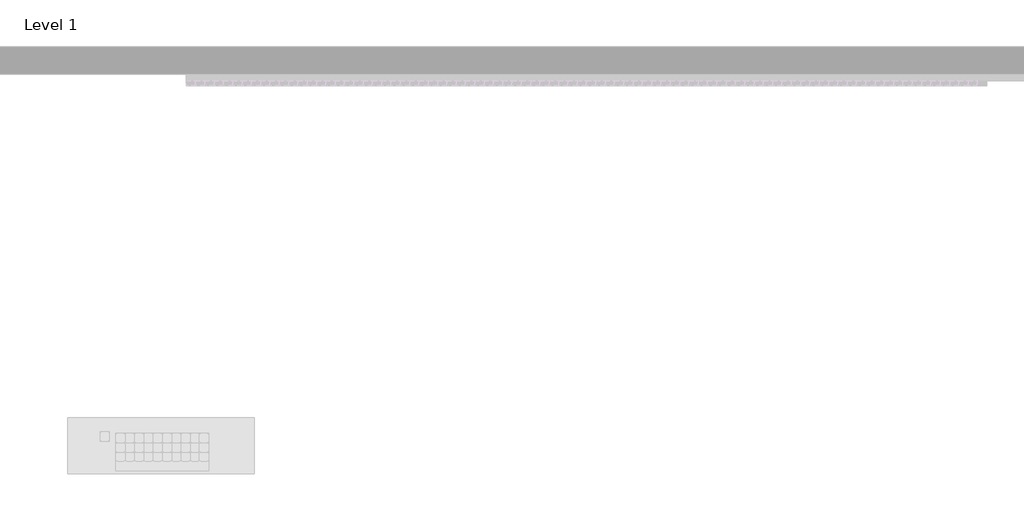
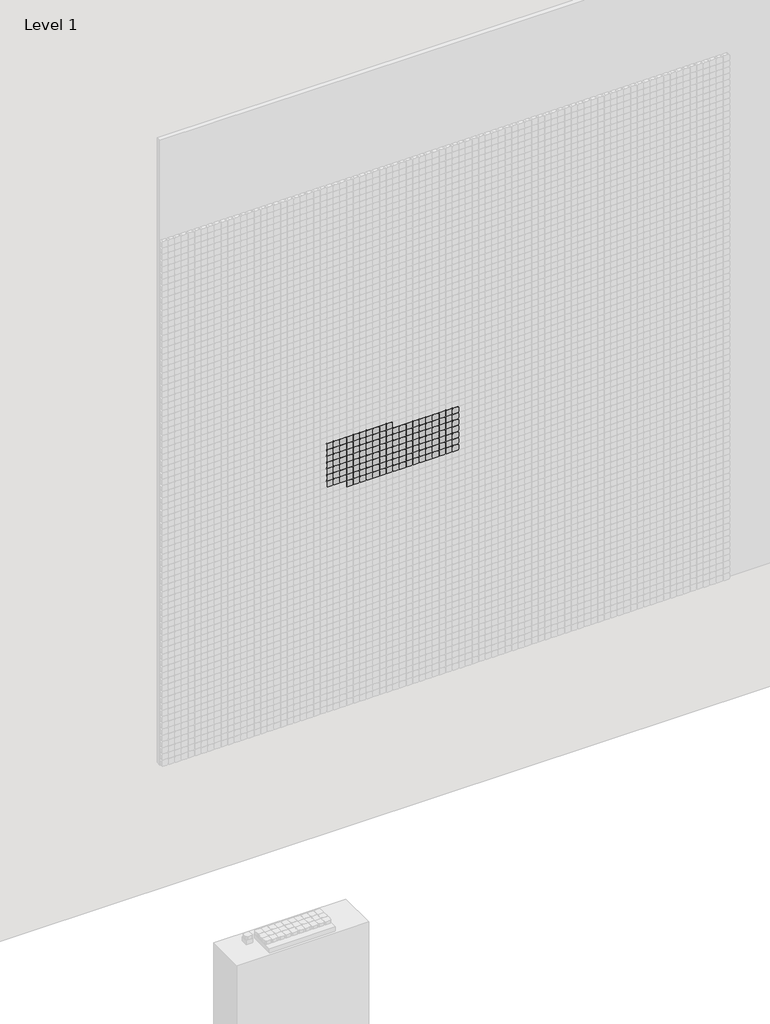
# One storey, part 29 of 71: 147 proxies.
"""IFC4 building model written with IfcOpenShell, lengths in millimetres."""

from ifc_helpers import new_model, si_unit, origin, place, context, project, spatial, transform, mapped, element, save
from components import generic_models_afde289c

model = new_model("IFC4")

# Units and contexts
model_context = context("Model", 3, world=origin())
ifc_project = project(units=[si_unit("LENGTHUNIT", "METRE", prefix="MILLI")], contexts=[model_context])

# Site, building, storey
site = spatial("IfcSite", under=ifc_project)
building = spatial("IfcBuilding", under=site)
storey = spatial("IfcBuildingStorey", under=building, Name="Level 1", Elevation=0.0)

# Proxies
placement = place(None, origin())
generic_models_shape = generic_models_afde289c(model_context)
element("IfcBuildingElementProxy", 1, Name="Pixel_M : Pixel_M", ObjectType="Pixel_M : Pixel_M", at=placement, inside=storey, context=model_context, shape_type="MappedRepresentation", body=[
    mapped(generic_models_shape, transform((6462.4280941, -75.0, 3116.3566215), x_axis=(1.0, 0.0, 0.0), y_axis=(0.0, 0.0, 1.0), z_axis=(0.0, -1.0, 0.0))),
])
element("IfcBuildingElementProxy", 2, Name="Pixel_M : Pixel_M", ObjectType="Pixel_M : Pixel_M", at=placement, inside=storey, context=model_context, shape_type="MappedRepresentation", body=[
    mapped(generic_models_shape, transform((6412.4280941, -75.0, 3116.3566215), x_axis=(1.0, 0.0, 0.0), y_axis=(0.0, 0.0, 1.0), z_axis=(0.0, -1.0, 0.0))),
])
element("IfcBuildingElementProxy", 3, Name="Pixel_M : Pixel_M", ObjectType="Pixel_M : Pixel_M", at=placement, inside=storey, context=model_context, shape_type="MappedRepresentation", body=[
    mapped(generic_models_shape, transform((6362.4280941, -75.0, 3116.3566215), x_axis=(1.0, 0.0, 0.0), y_axis=(0.0, 0.0, 1.0), z_axis=(0.0, -1.0, 0.0))),
])
element("IfcBuildingElementProxy", 4, Name="Pixel_M : Pixel_M", ObjectType="Pixel_M : Pixel_M", at=placement, inside=storey, context=model_context, shape_type="MappedRepresentation", body=[
    mapped(generic_models_shape, transform((6312.4280941, -75.0, 3116.3566215), x_axis=(1.0, 0.0, 0.0), y_axis=(0.0, 0.0, 1.0), z_axis=(0.0, -1.0, 0.0))),
])
element("IfcBuildingElementProxy", 5, Name="Pixel_M : Pixel_M", ObjectType="Pixel_M : Pixel_M", at=placement, inside=storey, context=model_context, shape_type="MappedRepresentation", body=[
    mapped(generic_models_shape, transform((6262.4280941, -75.0, 3116.3566215), x_axis=(1.0, 0.0, 0.0), y_axis=(0.0, 0.0, 1.0), z_axis=(0.0, -1.0, 0.0))),
])
element("IfcBuildingElementProxy", 6, Name="Pixel_M : Pixel_M", ObjectType="Pixel_M : Pixel_M", at=placement, inside=storey, context=model_context, shape_type="MappedRepresentation", body=[
    mapped(generic_models_shape, transform((6212.4280941, -75.0, 3116.3566215), x_axis=(1.0, 0.0, 0.0), y_axis=(0.0, 0.0, 1.0), z_axis=(0.0, -1.0, 0.0))),
])
element("IfcBuildingElementProxy", 7, Name="Pixel_M : Pixel_M", ObjectType="Pixel_M : Pixel_M", at=placement, inside=storey, context=model_context, shape_type="MappedRepresentation", body=[
    mapped(generic_models_shape, transform((6162.4280941, -75.0, 3116.3566215), x_axis=(1.0, 0.0, 0.0), y_axis=(0.0, 0.0, 1.0), z_axis=(0.0, -1.0, 0.0))),
])
element("IfcBuildingElementProxy", 8, Name="Pixel_M : Pixel_M", ObjectType="Pixel_M : Pixel_M", at=placement, inside=storey, context=model_context, shape_type="MappedRepresentation", body=[
    mapped(generic_models_shape, transform((6112.4280941, -75.0, 3116.3566215), x_axis=(1.0, 0.0, 0.0), y_axis=(0.0, 0.0, 1.0), z_axis=(0.0, -1.0, 0.0))),
])
element("IfcBuildingElementProxy", 9, Name="Pixel_M : Pixel_M", ObjectType="Pixel_M : Pixel_M", at=placement, inside=storey, context=model_context, shape_type="MappedRepresentation", body=[
    mapped(generic_models_shape, transform((6062.4280941, -75.0, 3116.3566215), x_axis=(1.0, 0.0, 0.0), y_axis=(0.0, 0.0, 1.0), z_axis=(0.0, -1.0, 0.0))),
])
element("IfcBuildingElementProxy", 10, Name="Pixel_M : Pixel_M", ObjectType="Pixel_M : Pixel_M", at=placement, inside=storey, context=model_context, shape_type="MappedRepresentation", body=[
    mapped(generic_models_shape, transform((6012.4280941, -75.0, 3116.3566215), x_axis=(1.0, 0.0, 0.0), y_axis=(0.0, 0.0, 1.0), z_axis=(0.0, -1.0, 0.0))),
])
element("IfcBuildingElementProxy", 11, Name="Pixel_M : Pixel_M", ObjectType="Pixel_M : Pixel_M", at=placement, inside=storey, context=model_context, shape_type="MappedRepresentation", body=[
    mapped(generic_models_shape, transform((6962.4280941, -75.0, 3066.3566215), x_axis=(1.0, 0.0, 0.0), y_axis=(0.0, 0.0, 1.0), z_axis=(0.0, -1.0, 0.0))),
])
element("IfcBuildingElementProxy", 12, Name="Pixel_M : Pixel_M", ObjectType="Pixel_M : Pixel_M", at=placement, inside=storey, context=model_context, shape_type="MappedRepresentation", body=[
    mapped(generic_models_shape, transform((6912.4280941, -75.0, 3066.3566215), x_axis=(1.0, 0.0, 0.0), y_axis=(0.0, 0.0, 1.0), z_axis=(0.0, -1.0, 0.0))),
])
element("IfcBuildingElementProxy", 13, Name="Pixel_M : Pixel_M", ObjectType="Pixel_M : Pixel_M", at=placement, inside=storey, context=model_context, shape_type="MappedRepresentation", body=[
    mapped(generic_models_shape, transform((6862.4280941, -75.0, 3066.3566215), x_axis=(1.0, 0.0, 0.0), y_axis=(0.0, 0.0, 1.0), z_axis=(0.0, -1.0, 0.0))),
])
element("IfcBuildingElementProxy", 14, Name="Pixel_M : Pixel_M", ObjectType="Pixel_M : Pixel_M", at=placement, inside=storey, context=model_context, shape_type="MappedRepresentation", body=[
    mapped(generic_models_shape, transform((6812.4280941, -75.0, 3066.3566215), x_axis=(1.0, 0.0, 0.0), y_axis=(0.0, 0.0, 1.0), z_axis=(0.0, -1.0, 0.0))),
])
element("IfcBuildingElementProxy", 15, Name="Pixel_M : Pixel_M", ObjectType="Pixel_M : Pixel_M", at=placement, inside=storey, context=model_context, shape_type="MappedRepresentation", body=[
    mapped(generic_models_shape, transform((6762.4280941, -75.0, 3066.3566215), x_axis=(1.0, 0.0, 0.0), y_axis=(0.0, 0.0, 1.0), z_axis=(0.0, -1.0, 0.0))),
])
element("IfcBuildingElementProxy", 16, Name="Pixel_M : Pixel_M", ObjectType="Pixel_M : Pixel_M", at=placement, inside=storey, context=model_context, shape_type="MappedRepresentation", body=[
    mapped(generic_models_shape, transform((6712.4280941, -75.0, 3066.3566215), x_axis=(1.0, 0.0, 0.0), y_axis=(0.0, 0.0, 1.0), z_axis=(0.0, -1.0, 0.0))),
])
element("IfcBuildingElementProxy", 17, Name="Pixel_M : Pixel_M", ObjectType="Pixel_M : Pixel_M", at=placement, inside=storey, context=model_context, shape_type="MappedRepresentation", body=[
    mapped(generic_models_shape, transform((6662.4280941, -75.0, 3066.3566215), x_axis=(1.0, 0.0, 0.0), y_axis=(0.0, 0.0, 1.0), z_axis=(0.0, -1.0, 0.0))),
])
element("IfcBuildingElementProxy", 18, Name="Pixel_M : Pixel_M", ObjectType="Pixel_M : Pixel_M", at=placement, inside=storey, context=model_context, shape_type="MappedRepresentation", body=[
    mapped(generic_models_shape, transform((6612.4280941, -75.0, 3066.3566215), x_axis=(1.0, 0.0, 0.0), y_axis=(0.0, 0.0, 1.0), z_axis=(0.0, -1.0, 0.0))),
])
element("IfcBuildingElementProxy", 19, Name="Pixel_M : Pixel_M", ObjectType="Pixel_M : Pixel_M", at=placement, inside=storey, context=model_context, shape_type="MappedRepresentation", body=[
    mapped(generic_models_shape, transform((6562.4280941, -75.0, 3066.3566215), x_axis=(1.0, 0.0, 0.0), y_axis=(0.0, 0.0, 1.0), z_axis=(0.0, -1.0, 0.0))),
])
element("IfcBuildingElementProxy", 20, Name="Pixel_M : Pixel_M", ObjectType="Pixel_M : Pixel_M", at=placement, inside=storey, context=model_context, shape_type="MappedRepresentation", body=[
    mapped(generic_models_shape, transform((6512.4280941, -75.0, 3066.3566215), x_axis=(1.0, 0.0, 0.0), y_axis=(0.0, 0.0, 1.0), z_axis=(0.0, -1.0, 0.0))),
])
element("IfcBuildingElementProxy", 21, Name="Pixel_M : Pixel_M", ObjectType="Pixel_M : Pixel_M", at=placement, inside=storey, context=model_context, shape_type="MappedRepresentation", body=[
    mapped(generic_models_shape, transform((6462.4280941, -75.0, 3066.3566215), x_axis=(1.0, 0.0, 0.0), y_axis=(0.0, 0.0, 1.0), z_axis=(0.0, -1.0, 0.0))),
])
element("IfcBuildingElementProxy", 22, Name="Pixel_M : Pixel_M", ObjectType="Pixel_M : Pixel_M", at=placement, inside=storey, context=model_context, shape_type="MappedRepresentation", body=[
    mapped(generic_models_shape, transform((6412.4280941, -75.0, 3066.3566215), x_axis=(1.0, 0.0, 0.0), y_axis=(0.0, 0.0, 1.0), z_axis=(0.0, -1.0, 0.0))),
])
element("IfcBuildingElementProxy", 23, Name="Pixel_M : Pixel_M", ObjectType="Pixel_M : Pixel_M", at=placement, inside=storey, context=model_context, shape_type="MappedRepresentation", body=[
    mapped(generic_models_shape, transform((6362.4280941, -75.0, 3066.3566215), x_axis=(1.0, 0.0, 0.0), y_axis=(0.0, 0.0, 1.0), z_axis=(0.0, -1.0, 0.0))),
])
element("IfcBuildingElementProxy", 24, Name="Pixel_M : Pixel_M", ObjectType="Pixel_M : Pixel_M", at=placement, inside=storey, context=model_context, shape_type="MappedRepresentation", body=[
    mapped(generic_models_shape, transform((6312.4280941, -75.0, 3066.3566215), x_axis=(1.0, 0.0, 0.0), y_axis=(0.0, 0.0, 1.0), z_axis=(0.0, -1.0, 0.0))),
])
element("IfcBuildingElementProxy", 25, Name="Pixel_M : Pixel_M", ObjectType="Pixel_M : Pixel_M", at=placement, inside=storey, context=model_context, shape_type="MappedRepresentation", body=[
    mapped(generic_models_shape, transform((6262.4280941, -75.0, 3066.3566215), x_axis=(1.0, 0.0, 0.0), y_axis=(0.0, 0.0, 1.0), z_axis=(0.0, -1.0, 0.0))),
])
element("IfcBuildingElementProxy", 26, Name="Pixel_M : Pixel_M", ObjectType="Pixel_M : Pixel_M", at=placement, inside=storey, context=model_context, shape_type="MappedRepresentation", body=[
    mapped(generic_models_shape, transform((6212.4280941, -75.0, 3066.3566215), x_axis=(1.0, 0.0, 0.0), y_axis=(0.0, 0.0, 1.0), z_axis=(0.0, -1.0, 0.0))),
])
element("IfcBuildingElementProxy", 27, Name="Pixel_M : Pixel_M", ObjectType="Pixel_M : Pixel_M", at=placement, inside=storey, context=model_context, shape_type="MappedRepresentation", body=[
    mapped(generic_models_shape, transform((6162.4280941, -75.0, 3066.3566215), x_axis=(1.0, 0.0, 0.0), y_axis=(0.0, 0.0, 1.0), z_axis=(0.0, -1.0, 0.0))),
])
element("IfcBuildingElementProxy", 28, Name="Pixel_M : Pixel_M", ObjectType="Pixel_M : Pixel_M", at=placement, inside=storey, context=model_context, shape_type="MappedRepresentation", body=[
    mapped(generic_models_shape, transform((6112.4280941, -75.0, 3066.3566215), x_axis=(1.0, 0.0, 0.0), y_axis=(0.0, 0.0, 1.0), z_axis=(0.0, -1.0, 0.0))),
])
element("IfcBuildingElementProxy", 29, Name="Pixel_M : Pixel_M", ObjectType="Pixel_M : Pixel_M", at=placement, inside=storey, context=model_context, shape_type="MappedRepresentation", body=[
    mapped(generic_models_shape, transform((6062.4280941, -75.0, 3066.3566215), x_axis=(1.0, 0.0, 0.0), y_axis=(0.0, 0.0, 1.0), z_axis=(0.0, -1.0, 0.0))),
])
element("IfcBuildingElementProxy", 30, Name="Pixel_M : Pixel_M", ObjectType="Pixel_M : Pixel_M", at=placement, inside=storey, context=model_context, shape_type="MappedRepresentation", body=[
    mapped(generic_models_shape, transform((6012.4280941, -75.0, 3066.3566215), x_axis=(1.0, 0.0, 0.0), y_axis=(0.0, 0.0, 1.0), z_axis=(0.0, -1.0, 0.0))),
])
element("IfcBuildingElementProxy", 31, Name="Pixel_M : Pixel_M", ObjectType="Pixel_M : Pixel_M", at=placement, inside=storey, context=model_context, shape_type="MappedRepresentation", body=[
    mapped(generic_models_shape, transform((6962.4280941, -75.0, 3016.3566215), x_axis=(1.0, 0.0, 0.0), y_axis=(0.0, 0.0, 1.0), z_axis=(0.0, -1.0, 0.0))),
])
element("IfcBuildingElementProxy", 32, Name="Pixel_M : Pixel_M", ObjectType="Pixel_M : Pixel_M", at=placement, inside=storey, context=model_context, shape_type="MappedRepresentation", body=[
    mapped(generic_models_shape, transform((6912.4280941, -75.0, 3016.3566215), x_axis=(1.0, 0.0, 0.0), y_axis=(0.0, 0.0, 1.0), z_axis=(0.0, -1.0, 0.0))),
])
element("IfcBuildingElementProxy", 33, Name="Pixel_M : Pixel_M", ObjectType="Pixel_M : Pixel_M", at=placement, inside=storey, context=model_context, shape_type="MappedRepresentation", body=[
    mapped(generic_models_shape, transform((6862.4280941, -75.0, 3016.3566215), x_axis=(1.0, 0.0, 0.0), y_axis=(0.0, 0.0, 1.0), z_axis=(0.0, -1.0, 0.0))),
])
element("IfcBuildingElementProxy", 34, Name="Pixel_M : Pixel_M", ObjectType="Pixel_M : Pixel_M", at=placement, inside=storey, context=model_context, shape_type="MappedRepresentation", body=[
    mapped(generic_models_shape, transform((6812.4280941, -75.0, 3016.3566215), x_axis=(1.0, 0.0, 0.0), y_axis=(0.0, 0.0, 1.0), z_axis=(0.0, -1.0, 0.0))),
])
element("IfcBuildingElementProxy", 35, Name="Pixel_M : Pixel_M", ObjectType="Pixel_M : Pixel_M", at=placement, inside=storey, context=model_context, shape_type="MappedRepresentation", body=[
    mapped(generic_models_shape, transform((6762.4280941, -75.0, 3016.3566215), x_axis=(1.0, 0.0, 0.0), y_axis=(0.0, 0.0, 1.0), z_axis=(0.0, -1.0, 0.0))),
])
element("IfcBuildingElementProxy", 36, Name="Pixel_M : Pixel_M", ObjectType="Pixel_M : Pixel_M", at=placement, inside=storey, context=model_context, shape_type="MappedRepresentation", body=[
    mapped(generic_models_shape, transform((6712.4280941, -75.0, 3016.3566215), x_axis=(1.0, 0.0, 0.0), y_axis=(0.0, 0.0, 1.0), z_axis=(0.0, -1.0, 0.0))),
])
element("IfcBuildingElementProxy", 37, Name="Pixel_M : Pixel_M", ObjectType="Pixel_M : Pixel_M", at=placement, inside=storey, context=model_context, shape_type="MappedRepresentation", body=[
    mapped(generic_models_shape, transform((6662.4280941, -75.0, 3016.3566215), x_axis=(1.0, 0.0, 0.0), y_axis=(0.0, 0.0, 1.0), z_axis=(0.0, -1.0, 0.0))),
])
element("IfcBuildingElementProxy", 38, Name="Pixel_M : Pixel_M", ObjectType="Pixel_M : Pixel_M", at=placement, inside=storey, context=model_context, shape_type="MappedRepresentation", body=[
    mapped(generic_models_shape, transform((6612.4280941, -75.0, 3016.3566215), x_axis=(1.0, 0.0, 0.0), y_axis=(0.0, 0.0, 1.0), z_axis=(0.0, -1.0, 0.0))),
])
element("IfcBuildingElementProxy", 39, Name="Pixel_M : Pixel_M", ObjectType="Pixel_M : Pixel_M", at=placement, inside=storey, context=model_context, shape_type="MappedRepresentation", body=[
    mapped(generic_models_shape, transform((6562.4280941, -75.0, 3016.3566215), x_axis=(1.0, 0.0, 0.0), y_axis=(0.0, 0.0, 1.0), z_axis=(0.0, -1.0, 0.0))),
])
element("IfcBuildingElementProxy", 40, Name="Pixel_M : Pixel_M", ObjectType="Pixel_M : Pixel_M", at=placement, inside=storey, context=model_context, shape_type="MappedRepresentation", body=[
    mapped(generic_models_shape, transform((6512.4280941, -75.0, 3016.3566215), x_axis=(1.0, 0.0, 0.0), y_axis=(0.0, 0.0, 1.0), z_axis=(0.0, -1.0, 0.0))),
])
element("IfcBuildingElementProxy", 41, Name="Pixel_M : Pixel_M", ObjectType="Pixel_M : Pixel_M", at=placement, inside=storey, context=model_context, shape_type="MappedRepresentation", body=[
    mapped(generic_models_shape, transform((6462.4280941, -75.0, 3016.3566215), x_axis=(1.0, 0.0, 0.0), y_axis=(0.0, 0.0, 1.0), z_axis=(0.0, -1.0, 0.0))),
])
element("IfcBuildingElementProxy", 42, Name="Pixel_M : Pixel_M", ObjectType="Pixel_M : Pixel_M", at=placement, inside=storey, context=model_context, shape_type="MappedRepresentation", body=[
    mapped(generic_models_shape, transform((6412.4280941, -75.0, 3016.3566215), x_axis=(1.0, 0.0, 0.0), y_axis=(0.0, 0.0, 1.0), z_axis=(0.0, -1.0, 0.0))),
])
element("IfcBuildingElementProxy", 43, Name="Pixel_M : Pixel_M", ObjectType="Pixel_M : Pixel_M", at=placement, inside=storey, context=model_context, shape_type="MappedRepresentation", body=[
    mapped(generic_models_shape, transform((6362.4280941, -75.0, 3016.3566215), x_axis=(1.0, 0.0, 0.0), y_axis=(0.0, 0.0, 1.0), z_axis=(0.0, -1.0, 0.0))),
])
element("IfcBuildingElementProxy", 44, Name="Pixel_M : Pixel_M", ObjectType="Pixel_M : Pixel_M", at=placement, inside=storey, context=model_context, shape_type="MappedRepresentation", body=[
    mapped(generic_models_shape, transform((6312.4280941, -75.0, 3016.3566215), x_axis=(1.0, 0.0, 0.0), y_axis=(0.0, 0.0, 1.0), z_axis=(0.0, -1.0, 0.0))),
])
element("IfcBuildingElementProxy", 45, Name="Pixel_M : Pixel_M", ObjectType="Pixel_M : Pixel_M", at=placement, inside=storey, context=model_context, shape_type="MappedRepresentation", body=[
    mapped(generic_models_shape, transform((6262.4280941, -75.0, 3016.3566215), x_axis=(1.0, 0.0, 0.0), y_axis=(0.0, 0.0, 1.0), z_axis=(0.0, -1.0, 0.0))),
])
element("IfcBuildingElementProxy", 46, Name="Pixel_M : Pixel_M", ObjectType="Pixel_M : Pixel_M", at=placement, inside=storey, context=model_context, shape_type="MappedRepresentation", body=[
    mapped(generic_models_shape, transform((6212.4280941, -75.0, 3016.3566215), x_axis=(1.0, 0.0, 0.0), y_axis=(0.0, 0.0, 1.0), z_axis=(0.0, -1.0, 0.0))),
])
element("IfcBuildingElementProxy", 47, Name="Pixel_M : Pixel_M", ObjectType="Pixel_M : Pixel_M", at=placement, inside=storey, context=model_context, shape_type="MappedRepresentation", body=[
    mapped(generic_models_shape, transform((6162.4280941, -75.0, 3016.3566215), x_axis=(1.0, 0.0, 0.0), y_axis=(0.0, 0.0, 1.0), z_axis=(0.0, -1.0, 0.0))),
])
element("IfcBuildingElementProxy", 48, Name="Pixel_M : Pixel_M", ObjectType="Pixel_M : Pixel_M", at=placement, inside=storey, context=model_context, shape_type="MappedRepresentation", body=[
    mapped(generic_models_shape, transform((6112.4280941, -75.0, 3016.3566215), x_axis=(1.0, 0.0, 0.0), y_axis=(0.0, 0.0, 1.0), z_axis=(0.0, -1.0, 0.0))),
])
element("IfcBuildingElementProxy", 49, Name="Pixel_M : Pixel_M", ObjectType="Pixel_M : Pixel_M", at=placement, inside=storey, context=model_context, shape_type="MappedRepresentation", body=[
    mapped(generic_models_shape, transform((6062.4280941, -75.0, 3016.3566215), x_axis=(1.0, 0.0, 0.0), y_axis=(0.0, 0.0, 1.0), z_axis=(0.0, -1.0, 0.0))),
])
element("IfcBuildingElementProxy", 50, Name="Pixel_M : Pixel_M", ObjectType="Pixel_M : Pixel_M", at=placement, inside=storey, context=model_context, shape_type="MappedRepresentation", body=[
    mapped(generic_models_shape, transform((6012.4280941, -75.0, 3016.3566215), x_axis=(1.0, 0.0, 0.0), y_axis=(0.0, 0.0, 1.0), z_axis=(0.0, -1.0, 0.0))),
])
element("IfcBuildingElementProxy", 51, Name="Pixel_M : Pixel_M", ObjectType="Pixel_M : Pixel_M", at=placement, inside=storey, context=model_context, shape_type="MappedRepresentation", body=[
    mapped(generic_models_shape, transform((6962.4280941, -75.0, 2966.3566215), x_axis=(1.0, 0.0, 0.0), y_axis=(0.0, 0.0, 1.0), z_axis=(0.0, -1.0, 0.0))),
])
element("IfcBuildingElementProxy", 52, Name="Pixel_M : Pixel_M", ObjectType="Pixel_M : Pixel_M", at=placement, inside=storey, context=model_context, shape_type="MappedRepresentation", body=[
    mapped(generic_models_shape, transform((6912.4280941, -75.0, 2966.3566215), x_axis=(1.0, 0.0, 0.0), y_axis=(0.0, 0.0, 1.0), z_axis=(0.0, -1.0, 0.0))),
])
element("IfcBuildingElementProxy", 53, Name="Pixel_M : Pixel_M", ObjectType="Pixel_M : Pixel_M", at=placement, inside=storey, context=model_context, shape_type="MappedRepresentation", body=[
    mapped(generic_models_shape, transform((6862.4280941, -75.0, 2966.3566215), x_axis=(1.0, 0.0, 0.0), y_axis=(0.0, 0.0, 1.0), z_axis=(0.0, -1.0, 0.0))),
])
element("IfcBuildingElementProxy", 54, Name="Pixel_M : Pixel_M", ObjectType="Pixel_M : Pixel_M", at=placement, inside=storey, context=model_context, shape_type="MappedRepresentation", body=[
    mapped(generic_models_shape, transform((6812.4280941, -75.0, 2966.3566215), x_axis=(1.0, 0.0, 0.0), y_axis=(0.0, 0.0, 1.0), z_axis=(0.0, -1.0, 0.0))),
])
element("IfcBuildingElementProxy", 55, Name="Pixel_M : Pixel_M", ObjectType="Pixel_M : Pixel_M", at=placement, inside=storey, context=model_context, shape_type="MappedRepresentation", body=[
    mapped(generic_models_shape, transform((6762.4280941, -75.0, 2966.3566215), x_axis=(1.0, 0.0, 0.0), y_axis=(0.0, 0.0, 1.0), z_axis=(0.0, -1.0, 0.0))),
])
element("IfcBuildingElementProxy", 56, Name="Pixel_M : Pixel_M", ObjectType="Pixel_M : Pixel_M", at=placement, inside=storey, context=model_context, shape_type="MappedRepresentation", body=[
    mapped(generic_models_shape, transform((6712.4280941, -75.0, 2966.3566215), x_axis=(1.0, 0.0, 0.0), y_axis=(0.0, 0.0, 1.0), z_axis=(0.0, -1.0, 0.0))),
])
element("IfcBuildingElementProxy", 57, Name="Pixel_M : Pixel_M", ObjectType="Pixel_M : Pixel_M", at=placement, inside=storey, context=model_context, shape_type="MappedRepresentation", body=[
    mapped(generic_models_shape, transform((6662.4280941, -75.0, 2966.3566215), x_axis=(1.0, 0.0, 0.0), y_axis=(0.0, 0.0, 1.0), z_axis=(0.0, -1.0, 0.0))),
])
element("IfcBuildingElementProxy", 58, Name="Pixel_M : Pixel_M", ObjectType="Pixel_M : Pixel_M", at=placement, inside=storey, context=model_context, shape_type="MappedRepresentation", body=[
    mapped(generic_models_shape, transform((6612.4280941, -75.0, 2966.3566215), x_axis=(1.0, 0.0, 0.0), y_axis=(0.0, 0.0, 1.0), z_axis=(0.0, -1.0, 0.0))),
])
element("IfcBuildingElementProxy", 59, Name="Pixel_M : Pixel_M", ObjectType="Pixel_M : Pixel_M", at=placement, inside=storey, context=model_context, shape_type="MappedRepresentation", body=[
    mapped(generic_models_shape, transform((6562.4280941, -75.0, 2966.3566215), x_axis=(1.0, 0.0, 0.0), y_axis=(0.0, 0.0, 1.0), z_axis=(0.0, -1.0, 0.0))),
])
element("IfcBuildingElementProxy", 60, Name="Pixel_M : Pixel_M", ObjectType="Pixel_M : Pixel_M", at=placement, inside=storey, context=model_context, shape_type="MappedRepresentation", body=[
    mapped(generic_models_shape, transform((6512.4280941, -75.0, 2966.3566215), x_axis=(1.0, 0.0, 0.0), y_axis=(0.0, 0.0, 1.0), z_axis=(0.0, -1.0, 0.0))),
])
element("IfcBuildingElementProxy", 61, Name="Pixel_M : Pixel_M", ObjectType="Pixel_M : Pixel_M", at=placement, inside=storey, context=model_context, shape_type="MappedRepresentation", body=[
    mapped(generic_models_shape, transform((6462.4280941, -75.0, 2966.3566215), x_axis=(1.0, 0.0, 0.0), y_axis=(0.0, 0.0, 1.0), z_axis=(0.0, -1.0, 0.0))),
])
element("IfcBuildingElementProxy", 62, Name="Pixel_M : Pixel_M", ObjectType="Pixel_M : Pixel_M", at=placement, inside=storey, context=model_context, shape_type="MappedRepresentation", body=[
    mapped(generic_models_shape, transform((6412.4280941, -75.0, 2966.3566215), x_axis=(1.0, 0.0, 0.0), y_axis=(0.0, 0.0, 1.0), z_axis=(0.0, -1.0, 0.0))),
])
element("IfcBuildingElementProxy", 63, Name="Pixel_M : Pixel_M", ObjectType="Pixel_M : Pixel_M", at=placement, inside=storey, context=model_context, shape_type="MappedRepresentation", body=[
    mapped(generic_models_shape, transform((6362.4280941, -75.0, 2966.3566215), x_axis=(1.0, 0.0, 0.0), y_axis=(0.0, 0.0, 1.0), z_axis=(0.0, -1.0, 0.0))),
])
element("IfcBuildingElementProxy", 64, Name="Pixel_M : Pixel_M", ObjectType="Pixel_M : Pixel_M", at=placement, inside=storey, context=model_context, shape_type="MappedRepresentation", body=[
    mapped(generic_models_shape, transform((6312.4280941, -75.0, 2966.3566215), x_axis=(1.0, 0.0, 0.0), y_axis=(0.0, 0.0, 1.0), z_axis=(0.0, -1.0, 0.0))),
])
element("IfcBuildingElementProxy", 65, Name="Pixel_M : Pixel_M", ObjectType="Pixel_M : Pixel_M", at=placement, inside=storey, context=model_context, shape_type="MappedRepresentation", body=[
    mapped(generic_models_shape, transform((6262.4280941, -75.0, 2966.3566215), x_axis=(1.0, 0.0, 0.0), y_axis=(0.0, 0.0, 1.0), z_axis=(0.0, -1.0, 0.0))),
])
element("IfcBuildingElementProxy", 66, Name="Pixel_M : Pixel_M", ObjectType="Pixel_M : Pixel_M", at=placement, inside=storey, context=model_context, shape_type="MappedRepresentation", body=[
    mapped(generic_models_shape, transform((6212.4280941, -75.0, 2966.3566215), x_axis=(1.0, 0.0, 0.0), y_axis=(0.0, 0.0, 1.0), z_axis=(0.0, -1.0, 0.0))),
])
element("IfcBuildingElementProxy", 67, Name="Pixel_M : Pixel_M", ObjectType="Pixel_M : Pixel_M", at=placement, inside=storey, context=model_context, shape_type="MappedRepresentation", body=[
    mapped(generic_models_shape, transform((6162.4280941, -75.0, 2966.3566215), x_axis=(1.0, 0.0, 0.0), y_axis=(0.0, 0.0, 1.0), z_axis=(0.0, -1.0, 0.0))),
])
element("IfcBuildingElementProxy", 68, Name="Pixel_M : Pixel_M", ObjectType="Pixel_M : Pixel_M", at=placement, inside=storey, context=model_context, shape_type="MappedRepresentation", body=[
    mapped(generic_models_shape, transform((6112.4280941, -75.0, 2966.3566215), x_axis=(1.0, 0.0, 0.0), y_axis=(0.0, 0.0, 1.0), z_axis=(0.0, -1.0, 0.0))),
])
element("IfcBuildingElementProxy", 69, Name="Pixel_M : Pixel_M", ObjectType="Pixel_M : Pixel_M", at=placement, inside=storey, context=model_context, shape_type="MappedRepresentation", body=[
    mapped(generic_models_shape, transform((6062.4280941, -75.0, 2966.3566215), x_axis=(1.0, 0.0, 0.0), y_axis=(0.0, 0.0, 1.0), z_axis=(0.0, -1.0, 0.0))),
])
element("IfcBuildingElementProxy", 70, Name="Pixel_M : Pixel_M", ObjectType="Pixel_M : Pixel_M", at=placement, inside=storey, context=model_context, shape_type="MappedRepresentation", body=[
    mapped(generic_models_shape, transform((6012.4280941, -75.0, 2966.3566215), x_axis=(1.0, 0.0, 0.0), y_axis=(0.0, 0.0, 1.0), z_axis=(0.0, -1.0, 0.0))),
])
element("IfcBuildingElementProxy", 71, Name="Pixel_M : Pixel_M", ObjectType="Pixel_M : Pixel_M", at=placement, inside=storey, context=model_context, shape_type="MappedRepresentation", body=[
    mapped(generic_models_shape, transform((6962.4280941, -75.0, 2916.3566215), x_axis=(1.0, 0.0, 0.0), y_axis=(0.0, 0.0, 1.0), z_axis=(0.0, -1.0, 0.0))),
])
element("IfcBuildingElementProxy", 72, Name="Pixel_M : Pixel_M", ObjectType="Pixel_M : Pixel_M", at=placement, inside=storey, context=model_context, shape_type="MappedRepresentation", body=[
    mapped(generic_models_shape, transform((6912.4280941, -75.0, 2916.3566215), x_axis=(1.0, 0.0, 0.0), y_axis=(0.0, 0.0, 1.0), z_axis=(0.0, -1.0, 0.0))),
])
element("IfcBuildingElementProxy", 73, Name="Pixel_M : Pixel_M", ObjectType="Pixel_M : Pixel_M", at=placement, inside=storey, context=model_context, shape_type="MappedRepresentation", body=[
    mapped(generic_models_shape, transform((6862.4280941, -75.0, 2916.3566215), x_axis=(1.0, 0.0, 0.0), y_axis=(0.0, 0.0, 1.0), z_axis=(0.0, -1.0, 0.0))),
])
element("IfcBuildingElementProxy", 74, Name="Pixel_M : Pixel_M", ObjectType="Pixel_M : Pixel_M", at=placement, inside=storey, context=model_context, shape_type="MappedRepresentation", body=[
    mapped(generic_models_shape, transform((6812.4280941, -75.0, 2916.3566215), x_axis=(1.0, 0.0, 0.0), y_axis=(0.0, 0.0, 1.0), z_axis=(0.0, -1.0, 0.0))),
])
element("IfcBuildingElementProxy", 75, Name="Pixel_M : Pixel_M", ObjectType="Pixel_M : Pixel_M", at=placement, inside=storey, context=model_context, shape_type="MappedRepresentation", body=[
    mapped(generic_models_shape, transform((6762.4280941, -75.0, 2916.3566215), x_axis=(1.0, 0.0, 0.0), y_axis=(0.0, 0.0, 1.0), z_axis=(0.0, -1.0, 0.0))),
])
element("IfcBuildingElementProxy", 76, Name="Pixel_M : Pixel_M", ObjectType="Pixel_M : Pixel_M", at=placement, inside=storey, context=model_context, shape_type="MappedRepresentation", body=[
    mapped(generic_models_shape, transform((6712.4280941, -75.0, 2916.3566215), x_axis=(1.0, 0.0, 0.0), y_axis=(0.0, 0.0, 1.0), z_axis=(0.0, -1.0, 0.0))),
])
element("IfcBuildingElementProxy", 77, Name="Pixel_M : Pixel_M", ObjectType="Pixel_M : Pixel_M", at=placement, inside=storey, context=model_context, shape_type="MappedRepresentation", body=[
    mapped(generic_models_shape, transform((6662.4280941, -75.0, 2916.3566215), x_axis=(1.0, 0.0, 0.0), y_axis=(0.0, 0.0, 1.0), z_axis=(0.0, -1.0, 0.0))),
])
element("IfcBuildingElementProxy", 78, Name="Pixel_M : Pixel_M", ObjectType="Pixel_M : Pixel_M", at=placement, inside=storey, context=model_context, shape_type="MappedRepresentation", body=[
    mapped(generic_models_shape, transform((6612.4280941, -75.0, 2916.3566215), x_axis=(1.0, 0.0, 0.0), y_axis=(0.0, 0.0, 1.0), z_axis=(0.0, -1.0, 0.0))),
])
element("IfcBuildingElementProxy", 79, Name="Pixel_M : Pixel_M", ObjectType="Pixel_M : Pixel_M", at=placement, inside=storey, context=model_context, shape_type="MappedRepresentation", body=[
    mapped(generic_models_shape, transform((6562.4280941, -75.0, 2916.3566215), x_axis=(1.0, 0.0, 0.0), y_axis=(0.0, 0.0, 1.0), z_axis=(0.0, -1.0, 0.0))),
])
element("IfcBuildingElementProxy", 80, Name="Pixel_M : Pixel_M", ObjectType="Pixel_M : Pixel_M", at=placement, inside=storey, context=model_context, shape_type="MappedRepresentation", body=[
    mapped(generic_models_shape, transform((6512.4280941, -75.0, 2916.3566215), x_axis=(1.0, 0.0, 0.0), y_axis=(0.0, 0.0, 1.0), z_axis=(0.0, -1.0, 0.0))),
])
element("IfcBuildingElementProxy", 81, Name="Pixel_M : Pixel_M", ObjectType="Pixel_M : Pixel_M", at=placement, inside=storey, context=model_context, shape_type="MappedRepresentation", body=[
    mapped(generic_models_shape, transform((6462.4280941, -75.0, 2916.3566215), x_axis=(1.0, 0.0, 0.0), y_axis=(0.0, 0.0, 1.0), z_axis=(0.0, -1.0, 0.0))),
])
element("IfcBuildingElementProxy", 82, Name="Pixel_M : Pixel_M", ObjectType="Pixel_M : Pixel_M", at=placement, inside=storey, context=model_context, shape_type="MappedRepresentation", body=[
    mapped(generic_models_shape, transform((6412.4280941, -75.0, 2916.3566215), x_axis=(1.0, 0.0, 0.0), y_axis=(0.0, 0.0, 1.0), z_axis=(0.0, -1.0, 0.0))),
])
element("IfcBuildingElementProxy", 83, Name="Pixel_M : Pixel_M", ObjectType="Pixel_M : Pixel_M", at=placement, inside=storey, context=model_context, shape_type="MappedRepresentation", body=[
    mapped(generic_models_shape, transform((6362.4280941, -75.0, 2916.3566215), x_axis=(1.0, 0.0, 0.0), y_axis=(0.0, 0.0, 1.0), z_axis=(0.0, -1.0, 0.0))),
])
element("IfcBuildingElementProxy", 84, Name="Pixel_M : Pixel_M", ObjectType="Pixel_M : Pixel_M", at=placement, inside=storey, context=model_context, shape_type="MappedRepresentation", body=[
    mapped(generic_models_shape, transform((6312.4280941, -75.0, 2916.3566215), x_axis=(1.0, 0.0, 0.0), y_axis=(0.0, 0.0, 1.0), z_axis=(0.0, -1.0, 0.0))),
])
element("IfcBuildingElementProxy", 85, Name="Pixel_M : Pixel_M", ObjectType="Pixel_M : Pixel_M", at=placement, inside=storey, context=model_context, shape_type="MappedRepresentation", body=[
    mapped(generic_models_shape, transform((6262.4280941, -75.0, 2916.3566215), x_axis=(1.0, 0.0, 0.0), y_axis=(0.0, 0.0, 1.0), z_axis=(0.0, -1.0, 0.0))),
])
element("IfcBuildingElementProxy", 86, Name="Pixel_M : Pixel_M", ObjectType="Pixel_M : Pixel_M", at=placement, inside=storey, context=model_context, shape_type="MappedRepresentation", body=[
    mapped(generic_models_shape, transform((6212.4280941, -75.0, 2916.3566215), x_axis=(1.0, 0.0, 0.0), y_axis=(0.0, 0.0, 1.0), z_axis=(0.0, -1.0, 0.0))),
])
element("IfcBuildingElementProxy", 87, Name="Pixel_M : Pixel_M", ObjectType="Pixel_M : Pixel_M", at=placement, inside=storey, context=model_context, shape_type="MappedRepresentation", body=[
    mapped(generic_models_shape, transform((6162.4280941, -75.0, 2916.3566215), x_axis=(1.0, 0.0, 0.0), y_axis=(0.0, 0.0, 1.0), z_axis=(0.0, -1.0, 0.0))),
])
element("IfcBuildingElementProxy", 88, Name="Pixel_M : Pixel_M", ObjectType="Pixel_M : Pixel_M", at=placement, inside=storey, context=model_context, shape_type="MappedRepresentation", body=[
    mapped(generic_models_shape, transform((6112.4280941, -75.0, 2916.3566215), x_axis=(1.0, 0.0, 0.0), y_axis=(0.0, 0.0, 1.0), z_axis=(0.0, -1.0, 0.0))),
])
element("IfcBuildingElementProxy", 89, Name="Pixel_M : Pixel_M", ObjectType="Pixel_M : Pixel_M", at=placement, inside=storey, context=model_context, shape_type="MappedRepresentation", body=[
    mapped(generic_models_shape, transform((6062.4280941, -75.0, 2916.3566215), x_axis=(1.0, 0.0, 0.0), y_axis=(0.0, 0.0, 1.0), z_axis=(0.0, -1.0, 0.0))),
])
element("IfcBuildingElementProxy", 90, Name="Pixel_M : Pixel_M", ObjectType="Pixel_M : Pixel_M", at=placement, inside=storey, context=model_context, shape_type="MappedRepresentation", body=[
    mapped(generic_models_shape, transform((6012.4280941, -75.0, 2916.3566215), x_axis=(1.0, 0.0, 0.0), y_axis=(0.0, 0.0, 1.0), z_axis=(0.0, -1.0, 0.0))),
])
element("IfcBuildingElementProxy", 91, Name="Pixel_M : Pixel_M", ObjectType="Pixel_M : Pixel_M", at=placement, inside=storey, context=model_context, shape_type="MappedRepresentation", body=[
    mapped(generic_models_shape, transform((6962.4280941, -75.0, 2866.3566215), x_axis=(1.0, 0.0, 0.0), y_axis=(0.0, 0.0, 1.0), z_axis=(0.0, -1.0, 0.0))),
])
element("IfcBuildingElementProxy", 92, Name="Pixel_M : Pixel_M", ObjectType="Pixel_M : Pixel_M", at=placement, inside=storey, context=model_context, shape_type="MappedRepresentation", body=[
    mapped(generic_models_shape, transform((6912.4280941, -75.0, 2866.3566215), x_axis=(1.0, 0.0, 0.0), y_axis=(0.0, 0.0, 1.0), z_axis=(0.0, -1.0, 0.0))),
])
element("IfcBuildingElementProxy", 93, Name="Pixel_M : Pixel_M", ObjectType="Pixel_M : Pixel_M", at=placement, inside=storey, context=model_context, shape_type="MappedRepresentation", body=[
    mapped(generic_models_shape, transform((6862.4280941, -75.0, 2866.3566215), x_axis=(1.0, 0.0, 0.0), y_axis=(0.0, 0.0, 1.0), z_axis=(0.0, -1.0, 0.0))),
])
element("IfcBuildingElementProxy", 94, Name="Pixel_M : Pixel_M", ObjectType="Pixel_M : Pixel_M", at=placement, inside=storey, context=model_context, shape_type="MappedRepresentation", body=[
    mapped(generic_models_shape, transform((6812.4280941, -75.0, 2866.3566215), x_axis=(1.0, 0.0, 0.0), y_axis=(0.0, 0.0, 1.0), z_axis=(0.0, -1.0, 0.0))),
])
element("IfcBuildingElementProxy", 95, Name="Pixel_M : Pixel_M", ObjectType="Pixel_M : Pixel_M", at=placement, inside=storey, context=model_context, shape_type="MappedRepresentation", body=[
    mapped(generic_models_shape, transform((6762.4280941, -75.0, 2866.3566215), x_axis=(1.0, 0.0, 0.0), y_axis=(0.0, 0.0, 1.0), z_axis=(0.0, -1.0, 0.0))),
])
element("IfcBuildingElementProxy", 96, Name="Pixel_M : Pixel_M", ObjectType="Pixel_M : Pixel_M", at=placement, inside=storey, context=model_context, shape_type="MappedRepresentation", body=[
    mapped(generic_models_shape, transform((6712.4280941, -75.0, 2866.3566215), x_axis=(1.0, 0.0, 0.0), y_axis=(0.0, 0.0, 1.0), z_axis=(0.0, -1.0, 0.0))),
])
element("IfcBuildingElementProxy", 97, Name="Pixel_M : Pixel_M", ObjectType="Pixel_M : Pixel_M", at=placement, inside=storey, context=model_context, shape_type="MappedRepresentation", body=[
    mapped(generic_models_shape, transform((6662.4280941, -75.0, 2866.3566215), x_axis=(1.0, 0.0, 0.0), y_axis=(0.0, 0.0, 1.0), z_axis=(0.0, -1.0, 0.0))),
])
element("IfcBuildingElementProxy", 98, Name="Pixel_M : Pixel_M", ObjectType="Pixel_M : Pixel_M", at=placement, inside=storey, context=model_context, shape_type="MappedRepresentation", body=[
    mapped(generic_models_shape, transform((6612.4280941, -75.0, 2866.3566215), x_axis=(1.0, 0.0, 0.0), y_axis=(0.0, 0.0, 1.0), z_axis=(0.0, -1.0, 0.0))),
])
element("IfcBuildingElementProxy", 99, Name="Pixel_M : Pixel_M", ObjectType="Pixel_M : Pixel_M", at=placement, inside=storey, context=model_context, shape_type="MappedRepresentation", body=[
    mapped(generic_models_shape, transform((6562.4280941, -75.0, 2866.3566215), x_axis=(1.0, 0.0, 0.0), y_axis=(0.0, 0.0, 1.0), z_axis=(0.0, -1.0, 0.0))),
])
element("IfcBuildingElementProxy", 100, Name="Pixel_M : Pixel_M", ObjectType="Pixel_M : Pixel_M", at=placement, inside=storey, context=model_context, shape_type="MappedRepresentation", body=[
    mapped(generic_models_shape, transform((6512.4280941, -75.0, 2866.3566215), x_axis=(1.0, 0.0, 0.0), y_axis=(0.0, 0.0, 1.0), z_axis=(0.0, -1.0, 0.0))),
])
element("IfcBuildingElementProxy", 101, Name="Pixel_M : Pixel_M", ObjectType="Pixel_M : Pixel_M", at=placement, inside=storey, context=model_context, shape_type="MappedRepresentation", body=[
    mapped(generic_models_shape, transform((6462.4280941, -75.0, 2866.3566215), x_axis=(1.0, 0.0, 0.0), y_axis=(0.0, 0.0, 1.0), z_axis=(0.0, -1.0, 0.0))),
])
element("IfcBuildingElementProxy", 102, Name="Pixel_M : Pixel_M", ObjectType="Pixel_M : Pixel_M", at=placement, inside=storey, context=model_context, shape_type="MappedRepresentation", body=[
    mapped(generic_models_shape, transform((6412.4280941, -75.0, 2866.3566215), x_axis=(1.0, 0.0, 0.0), y_axis=(0.0, 0.0, 1.0), z_axis=(0.0, -1.0, 0.0))),
])
element("IfcBuildingElementProxy", 103, Name="Pixel_M : Pixel_M", ObjectType="Pixel_M : Pixel_M", at=placement, inside=storey, context=model_context, shape_type="MappedRepresentation", body=[
    mapped(generic_models_shape, transform((6362.4280941, -75.0, 2866.3566215), x_axis=(1.0, 0.0, 0.0), y_axis=(0.0, 0.0, 1.0), z_axis=(0.0, -1.0, 0.0))),
])
element("IfcBuildingElementProxy", 104, Name="Pixel_M : Pixel_M", ObjectType="Pixel_M : Pixel_M", at=placement, inside=storey, context=model_context, shape_type="MappedRepresentation", body=[
    mapped(generic_models_shape, transform((6312.4280941, -75.0, 2866.3566215), x_axis=(1.0, 0.0, 0.0), y_axis=(0.0, 0.0, 1.0), z_axis=(0.0, -1.0, 0.0))),
])
element("IfcBuildingElementProxy", 105, Name="Pixel_M : Pixel_M", ObjectType="Pixel_M : Pixel_M", at=placement, inside=storey, context=model_context, shape_type="MappedRepresentation", body=[
    mapped(generic_models_shape, transform((6262.4280941, -75.0, 2866.3566215), x_axis=(1.0, 0.0, 0.0), y_axis=(0.0, 0.0, 1.0), z_axis=(0.0, -1.0, 0.0))),
])
element("IfcBuildingElementProxy", 106, Name="Pixel_M : Pixel_M", ObjectType="Pixel_M : Pixel_M", at=placement, inside=storey, context=model_context, shape_type="MappedRepresentation", body=[
    mapped(generic_models_shape, transform((6212.4280941, -75.0, 2866.3566215), x_axis=(1.0, 0.0, 0.0), y_axis=(0.0, 0.0, 1.0), z_axis=(0.0, -1.0, 0.0))),
])
element("IfcBuildingElementProxy", 107, Name="Pixel_M : Pixel_M", ObjectType="Pixel_M : Pixel_M", at=placement, inside=storey, context=model_context, shape_type="MappedRepresentation", body=[
    mapped(generic_models_shape, transform((6162.4280941, -75.0, 2866.3566215), x_axis=(1.0, 0.0, 0.0), y_axis=(0.0, 0.0, 1.0), z_axis=(0.0, -1.0, 0.0))),
])
element("IfcBuildingElementProxy", 108, Name="Pixel_M : Pixel_M", ObjectType="Pixel_M : Pixel_M", at=placement, inside=storey, context=model_context, shape_type="MappedRepresentation", body=[
    mapped(generic_models_shape, transform((6112.4280941, -75.0, 2866.3566215), x_axis=(1.0, 0.0, 0.0), y_axis=(0.0, 0.0, 1.0), z_axis=(0.0, -1.0, 0.0))),
])
element("IfcBuildingElementProxy", 109, Name="Pixel_M : Pixel_M", ObjectType="Pixel_M : Pixel_M", at=placement, inside=storey, context=model_context, shape_type="MappedRepresentation", body=[
    mapped(generic_models_shape, transform((6062.4280941, -75.0, 2866.3566215), x_axis=(1.0, 0.0, 0.0), y_axis=(0.0, 0.0, 1.0), z_axis=(0.0, -1.0, 0.0))),
])
element("IfcBuildingElementProxy", 110, Name="Pixel_M : Pixel_M", ObjectType="Pixel_M : Pixel_M", at=placement, inside=storey, context=model_context, shape_type="MappedRepresentation", body=[
    mapped(generic_models_shape, transform((6012.4280941, -75.0, 2866.3566215), x_axis=(1.0, 0.0, 0.0), y_axis=(0.0, 0.0, 1.0), z_axis=(0.0, -1.0, 0.0))),
])
element("IfcBuildingElementProxy", 111, Name="Pixel_M : Pixel_M", ObjectType="Pixel_M : Pixel_M", at=placement, inside=storey, context=model_context, shape_type="MappedRepresentation", body=[
    mapped(generic_models_shape, transform((6962.4280941, -75.0, 2816.3566215), x_axis=(1.0, 0.0, 0.0), y_axis=(0.0, 0.0, 1.0), z_axis=(0.0, -1.0, 0.0))),
])
element("IfcBuildingElementProxy", 112, Name="Pixel_M : Pixel_M", ObjectType="Pixel_M : Pixel_M", at=placement, inside=storey, context=model_context, shape_type="MappedRepresentation", body=[
    mapped(generic_models_shape, transform((6912.4280941, -75.0, 2816.3566215), x_axis=(1.0, 0.0, 0.0), y_axis=(0.0, 0.0, 1.0), z_axis=(0.0, -1.0, 0.0))),
])
element("IfcBuildingElementProxy", 113, Name="Pixel_M : Pixel_M", ObjectType="Pixel_M : Pixel_M", at=placement, inside=storey, context=model_context, shape_type="MappedRepresentation", body=[
    mapped(generic_models_shape, transform((6862.4280941, -75.0, 2816.3566215), x_axis=(1.0, 0.0, 0.0), y_axis=(0.0, 0.0, 1.0), z_axis=(0.0, -1.0, 0.0))),
])
element("IfcBuildingElementProxy", 114, Name="Pixel_M : Pixel_M", ObjectType="Pixel_M : Pixel_M", at=placement, inside=storey, context=model_context, shape_type="MappedRepresentation", body=[
    mapped(generic_models_shape, transform((6812.4280941, -75.0, 2816.3566215), x_axis=(1.0, 0.0, 0.0), y_axis=(0.0, 0.0, 1.0), z_axis=(0.0, -1.0, 0.0))),
])
element("IfcBuildingElementProxy", 115, Name="Pixel_M : Pixel_M", ObjectType="Pixel_M : Pixel_M", at=placement, inside=storey, context=model_context, shape_type="MappedRepresentation", body=[
    mapped(generic_models_shape, transform((6762.4280941, -75.0, 2816.3566215), x_axis=(1.0, 0.0, 0.0), y_axis=(0.0, 0.0, 1.0), z_axis=(0.0, -1.0, 0.0))),
])
element("IfcBuildingElementProxy", 116, Name="Pixel_M : Pixel_M", ObjectType="Pixel_M : Pixel_M", at=placement, inside=storey, context=model_context, shape_type="MappedRepresentation", body=[
    mapped(generic_models_shape, transform((6712.4280941, -75.0, 2816.3566215), x_axis=(1.0, 0.0, 0.0), y_axis=(0.0, 0.0, 1.0), z_axis=(0.0, -1.0, 0.0))),
])
element("IfcBuildingElementProxy", 117, Name="Pixel_M : Pixel_M", ObjectType="Pixel_M : Pixel_M", at=placement, inside=storey, context=model_context, shape_type="MappedRepresentation", body=[
    mapped(generic_models_shape, transform((6662.4280941, -75.0, 2816.3566215), x_axis=(1.0, 0.0, 0.0), y_axis=(0.0, 0.0, 1.0), z_axis=(0.0, -1.0, 0.0))),
])
element("IfcBuildingElementProxy", 118, Name="Pixel_M : Pixel_M", ObjectType="Pixel_M : Pixel_M", at=placement, inside=storey, context=model_context, shape_type="MappedRepresentation", body=[
    mapped(generic_models_shape, transform((6612.4280941, -75.0, 2816.3566215), x_axis=(1.0, 0.0, 0.0), y_axis=(0.0, 0.0, 1.0), z_axis=(0.0, -1.0, 0.0))),
])
element("IfcBuildingElementProxy", 119, Name="Pixel_M : Pixel_M", ObjectType="Pixel_M : Pixel_M", at=placement, inside=storey, context=model_context, shape_type="MappedRepresentation", body=[
    mapped(generic_models_shape, transform((6562.4280941, -75.0, 2816.3566215), x_axis=(1.0, 0.0, 0.0), y_axis=(0.0, 0.0, 1.0), z_axis=(0.0, -1.0, 0.0))),
])
element("IfcBuildingElementProxy", 120, Name="Pixel_M : Pixel_M", ObjectType="Pixel_M : Pixel_M", at=placement, inside=storey, context=model_context, shape_type="MappedRepresentation", body=[
    mapped(generic_models_shape, transform((6512.4280941, -75.0, 2816.3566215), x_axis=(1.0, 0.0, 0.0), y_axis=(0.0, 0.0, 1.0), z_axis=(0.0, -1.0, 0.0))),
])
element("IfcBuildingElementProxy", 121, Name="Pixel_M : Pixel_M", ObjectType="Pixel_M : Pixel_M", at=placement, inside=storey, context=model_context, shape_type="MappedRepresentation", body=[
    mapped(generic_models_shape, transform((6462.4280941, -75.0, 2816.3566215), x_axis=(1.0, 0.0, 0.0), y_axis=(0.0, 0.0, 1.0), z_axis=(0.0, -1.0, 0.0))),
])
element("IfcBuildingElementProxy", 122, Name="Pixel_M : Pixel_M", ObjectType="Pixel_M : Pixel_M", at=placement, inside=storey, context=model_context, shape_type="MappedRepresentation", body=[
    mapped(generic_models_shape, transform((6412.4280941, -75.0, 2816.3566215), x_axis=(1.0, 0.0, 0.0), y_axis=(0.0, 0.0, 1.0), z_axis=(0.0, -1.0, 0.0))),
])
element("IfcBuildingElementProxy", 123, Name="Pixel_M : Pixel_M", ObjectType="Pixel_M : Pixel_M", at=placement, inside=storey, context=model_context, shape_type="MappedRepresentation", body=[
    mapped(generic_models_shape, transform((6362.4280941, -75.0, 2816.3566215), x_axis=(1.0, 0.0, 0.0), y_axis=(0.0, 0.0, 1.0), z_axis=(0.0, -1.0, 0.0))),
])
element("IfcBuildingElementProxy", 124, Name="Pixel_M : Pixel_M", ObjectType="Pixel_M : Pixel_M", at=placement, inside=storey, context=model_context, shape_type="MappedRepresentation", body=[
    mapped(generic_models_shape, transform((6312.4280941, -75.0, 2816.3566215), x_axis=(1.0, 0.0, 0.0), y_axis=(0.0, 0.0, 1.0), z_axis=(0.0, -1.0, 0.0))),
])
element("IfcBuildingElementProxy", 125, Name="Pixel_M : Pixel_M", ObjectType="Pixel_M : Pixel_M", at=placement, inside=storey, context=model_context, shape_type="MappedRepresentation", body=[
    mapped(generic_models_shape, transform((6262.4280941, -75.0, 2816.3566215), x_axis=(1.0, 0.0, 0.0), y_axis=(0.0, 0.0, 1.0), z_axis=(0.0, -1.0, 0.0))),
])
element("IfcBuildingElementProxy", 126, Name="Pixel_M : Pixel_M", ObjectType="Pixel_M : Pixel_M", at=placement, inside=storey, context=model_context, shape_type="MappedRepresentation", body=[
    mapped(generic_models_shape, transform((6212.4280941, -75.0, 2816.3566215), x_axis=(1.0, 0.0, 0.0), y_axis=(0.0, 0.0, 1.0), z_axis=(0.0, -1.0, 0.0))),
])
element("IfcBuildingElementProxy", 127, Name="Pixel_M : Pixel_M", ObjectType="Pixel_M : Pixel_M", at=placement, inside=storey, context=model_context, shape_type="MappedRepresentation", body=[
    mapped(generic_models_shape, transform((6162.4280941, -75.0, 2816.3566215), x_axis=(1.0, 0.0, 0.0), y_axis=(0.0, 0.0, 1.0), z_axis=(0.0, -1.0, 0.0))),
])
element("IfcBuildingElementProxy", 128, Name="Pixel_M : Pixel_M", ObjectType="Pixel_M : Pixel_M", at=placement, inside=storey, context=model_context, shape_type="MappedRepresentation", body=[
    mapped(generic_models_shape, transform((6112.4280941, -75.0, 2816.3566215), x_axis=(1.0, 0.0, 0.0), y_axis=(0.0, 0.0, 1.0), z_axis=(0.0, -1.0, 0.0))),
])
element("IfcBuildingElementProxy", 129, Name="Pixel_M : Pixel_M", ObjectType="Pixel_M : Pixel_M", at=placement, inside=storey, context=model_context, shape_type="MappedRepresentation", body=[
    mapped(generic_models_shape, transform((6062.4280941, -75.0, 2816.3566215), x_axis=(1.0, 0.0, 0.0), y_axis=(0.0, 0.0, 1.0), z_axis=(0.0, -1.0, 0.0))),
])
element("IfcBuildingElementProxy", 130, Name="Pixel_M : Pixel_M", ObjectType="Pixel_M : Pixel_M", at=placement, inside=storey, context=model_context, shape_type="MappedRepresentation", body=[
    mapped(generic_models_shape, transform((6012.4280941, -75.0, 2816.3566215), x_axis=(1.0, 0.0, 0.0), y_axis=(0.0, 0.0, 1.0), z_axis=(0.0, -1.0, 0.0))),
])
element("IfcBuildingElementProxy", 131, Name="Pixel_M : Pixel_M", ObjectType="Pixel_M : Pixel_M", at=placement, inside=storey, context=model_context, shape_type="MappedRepresentation", body=[
    mapped(generic_models_shape, transform((6962.4280941, -75.0, 2766.3566215), x_axis=(1.0, 0.0, 0.0), y_axis=(0.0, 0.0, 1.0), z_axis=(0.0, -1.0, 0.0))),
])
element("IfcBuildingElementProxy", 132, Name="Pixel_M : Pixel_M", ObjectType="Pixel_M : Pixel_M", at=placement, inside=storey, context=model_context, shape_type="MappedRepresentation", body=[
    mapped(generic_models_shape, transform((6912.4280941, -75.0, 2766.3566215), x_axis=(1.0, 0.0, 0.0), y_axis=(0.0, 0.0, 1.0), z_axis=(0.0, -1.0, 0.0))),
])
element("IfcBuildingElementProxy", 133, Name="Pixel_M : Pixel_M", ObjectType="Pixel_M : Pixel_M", at=placement, inside=storey, context=model_context, shape_type="MappedRepresentation", body=[
    mapped(generic_models_shape, transform((6862.4280941, -75.0, 2766.3566215), x_axis=(1.0, 0.0, 0.0), y_axis=(0.0, 0.0, 1.0), z_axis=(0.0, -1.0, 0.0))),
])
element("IfcBuildingElementProxy", 134, Name="Pixel_M : Pixel_M", ObjectType="Pixel_M : Pixel_M", at=placement, inside=storey, context=model_context, shape_type="MappedRepresentation", body=[
    mapped(generic_models_shape, transform((6812.4280941, -75.0, 2766.3566215), x_axis=(1.0, 0.0, 0.0), y_axis=(0.0, 0.0, 1.0), z_axis=(0.0, -1.0, 0.0))),
])
element("IfcBuildingElementProxy", 135, Name="Pixel_M : Pixel_M", ObjectType="Pixel_M : Pixel_M", at=placement, inside=storey, context=model_context, shape_type="MappedRepresentation", body=[
    mapped(generic_models_shape, transform((6762.4280941, -75.0, 2766.3566215), x_axis=(1.0, 0.0, 0.0), y_axis=(0.0, 0.0, 1.0), z_axis=(0.0, -1.0, 0.0))),
])
element("IfcBuildingElementProxy", 136, Name="Pixel_M : Pixel_M", ObjectType="Pixel_M : Pixel_M", at=placement, inside=storey, context=model_context, shape_type="MappedRepresentation", body=[
    mapped(generic_models_shape, transform((6712.4280941, -75.0, 2766.3566215), x_axis=(1.0, 0.0, 0.0), y_axis=(0.0, 0.0, 1.0), z_axis=(0.0, -1.0, 0.0))),
])
element("IfcBuildingElementProxy", 137, Name="Pixel_M : Pixel_M", ObjectType="Pixel_M : Pixel_M", at=placement, inside=storey, context=model_context, shape_type="MappedRepresentation", body=[
    mapped(generic_models_shape, transform((6662.4280941, -75.0, 2766.3566215), x_axis=(1.0, 0.0, 0.0), y_axis=(0.0, 0.0, 1.0), z_axis=(0.0, -1.0, 0.0))),
])
element("IfcBuildingElementProxy", 138, Name="Pixel_M : Pixel_M", ObjectType="Pixel_M : Pixel_M", at=placement, inside=storey, context=model_context, shape_type="MappedRepresentation", body=[
    mapped(generic_models_shape, transform((6612.4280941, -75.0, 2766.3566215), x_axis=(1.0, 0.0, 0.0), y_axis=(0.0, 0.0, 1.0), z_axis=(0.0, -1.0, 0.0))),
])
element("IfcBuildingElementProxy", 139, Name="Pixel_M : Pixel_M", ObjectType="Pixel_M : Pixel_M", at=placement, inside=storey, context=model_context, shape_type="MappedRepresentation", body=[
    mapped(generic_models_shape, transform((6562.4280941, -75.0, 2766.3566215), x_axis=(1.0, 0.0, 0.0), y_axis=(0.0, 0.0, 1.0), z_axis=(0.0, -1.0, 0.0))),
])
element("IfcBuildingElementProxy", 140, Name="Pixel_M : Pixel_M", ObjectType="Pixel_M : Pixel_M", at=placement, inside=storey, context=model_context, shape_type="MappedRepresentation", body=[
    mapped(generic_models_shape, transform((6512.4280941, -75.0, 2766.3566215), x_axis=(1.0, 0.0, 0.0), y_axis=(0.0, 0.0, 1.0), z_axis=(0.0, -1.0, 0.0))),
])
element("IfcBuildingElementProxy", 141, Name="Pixel_M : Pixel_M", ObjectType="Pixel_M : Pixel_M", at=placement, inside=storey, context=model_context, shape_type="MappedRepresentation", body=[
    mapped(generic_models_shape, transform((6462.4280941, -75.0, 2766.3566215), x_axis=(1.0, 0.0, 0.0), y_axis=(0.0, 0.0, 1.0), z_axis=(0.0, -1.0, 0.0))),
])
element("IfcBuildingElementProxy", 142, Name="Pixel_M : Pixel_M", ObjectType="Pixel_M : Pixel_M", at=placement, inside=storey, context=model_context, shape_type="MappedRepresentation", body=[
    mapped(generic_models_shape, transform((6412.4280941, -75.0, 2766.3566215), x_axis=(1.0, 0.0, 0.0), y_axis=(0.0, 0.0, 1.0), z_axis=(0.0, -1.0, 0.0))),
])
element("IfcBuildingElementProxy", 143, Name="Pixel_M : Pixel_M", ObjectType="Pixel_M : Pixel_M", at=placement, inside=storey, context=model_context, shape_type="MappedRepresentation", body=[
    mapped(generic_models_shape, transform((6362.4280941, -75.0, 2766.3566215), x_axis=(1.0, 0.0, 0.0), y_axis=(0.0, 0.0, 1.0), z_axis=(0.0, -1.0, 0.0))),
])
element("IfcBuildingElementProxy", 144, Name="Pixel_M : Pixel_M", ObjectType="Pixel_M : Pixel_M", at=placement, inside=storey, context=model_context, shape_type="MappedRepresentation", body=[
    mapped(generic_models_shape, transform((6312.4280941, -75.0, 2766.3566215), x_axis=(1.0, 0.0, 0.0), y_axis=(0.0, 0.0, 1.0), z_axis=(0.0, -1.0, 0.0))),
])
element("IfcBuildingElementProxy", 145, Name="Pixel_M : Pixel_M", ObjectType="Pixel_M : Pixel_M", at=placement, inside=storey, context=model_context, shape_type="MappedRepresentation", body=[
    mapped(generic_models_shape, transform((6262.4280941, -75.0, 2766.3566215), x_axis=(1.0, 0.0, 0.0), y_axis=(0.0, 0.0, 1.0), z_axis=(0.0, -1.0, 0.0))),
])
element("IfcBuildingElementProxy", 146, Name="Pixel_M : Pixel_M", ObjectType="Pixel_M : Pixel_M", at=placement, inside=storey, context=model_context, shape_type="MappedRepresentation", body=[
    mapped(generic_models_shape, transform((6212.4280941, -75.0, 2766.3566215), x_axis=(1.0, 0.0, 0.0), y_axis=(0.0, 0.0, 1.0), z_axis=(0.0, -1.0, 0.0))),
])
element("IfcBuildingElementProxy", 147, Name="Pixel_M : Pixel_M", ObjectType="Pixel_M : Pixel_M", at=placement, inside=storey, context=model_context, shape_type="MappedRepresentation", body=[
    mapped(generic_models_shape, transform((6162.4280941, -75.0, 2766.3566215), x_axis=(1.0, 0.0, 0.0), y_axis=(0.0, 0.0, 1.0), z_axis=(0.0, -1.0, 0.0))),
])

save(model, "model.ifc")
